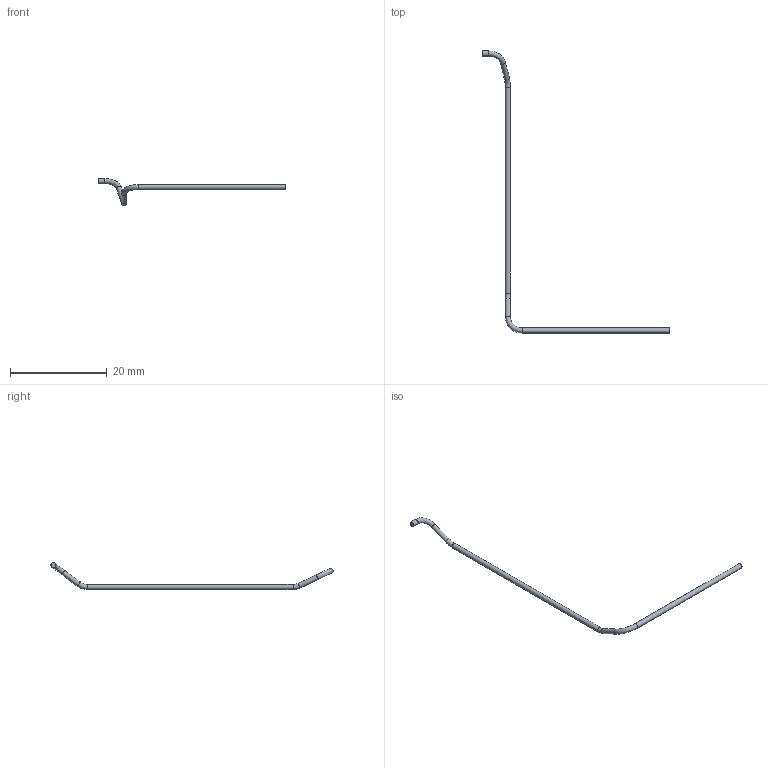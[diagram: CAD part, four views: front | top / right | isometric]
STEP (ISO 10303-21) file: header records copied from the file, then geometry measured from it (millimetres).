
FILE_DESCRIPTION(('Open CASCADE Model'),'2;1');
FILE_NAME('Open CASCADE Shape Model','2026-09-15T14:06:45',('Author'),( 'Open CASCADE'),'Open CASCADE STEP processor 7.7','Open CASCADE 7.7' ,'Unknown');
FILE_SCHEMA(('AUTOMOTIVE_DESIGN { 1 0 10303 214 1 1 1 1 }'));
Length unit declared in the file: millimetre
Products named in the file (1): J9_COMMON_BRANCH_1_OD1p05_R3
Bounding box: 38.8 x 58.4 x 5.6 mm (x, y, z)
Volume: 82.1 mm3; surface area: 314.7 mm2
Topology: 1 solids, 1 shells, 11 faces, 19 edges, 10 vertices
Faces by surface type: cylinder 5, torus 4, plane 2
Full cylindrical faces by diameter (mm): 1.05 x5
Entity records: 503 total; most frequent: CARTESIAN_POINT 96, DIRECTION 78, ORIENTED_EDGE 38, PCURVE 38, DEFINITIONAL_REPRESENTATION 38, AXIS2_PLACEMENT_3D 26, LINE 24, VECTOR 24
